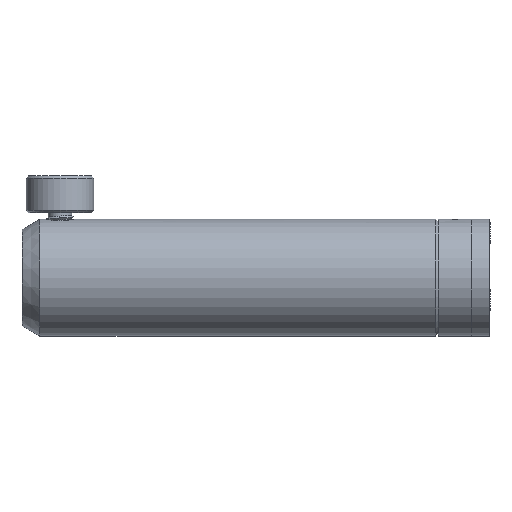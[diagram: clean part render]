
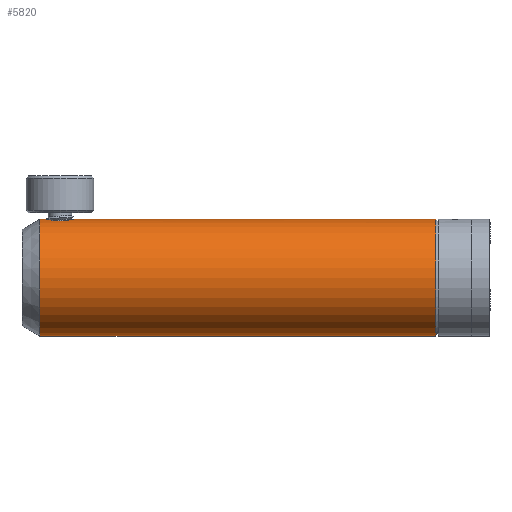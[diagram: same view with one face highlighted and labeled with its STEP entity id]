
A CAD part, left-side view. The second image highlights one B-rep face of the part: STEP entity #5820.
In plain terms, the highlighted cylindrical face has radius 12.497 mm (diameter 24.994 mm), a partial arc.
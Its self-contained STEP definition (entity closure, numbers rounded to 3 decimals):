
#3859=DIRECTION('',(0.,1.,0.));
#3860=VECTOR('',#3859,77.402);
#3861=CARTESIAN_POINT('',(-28.909,-62.492,
23.27));
#3862=LINE('',#3861,#3860);
#3863=CARTESIAN_POINT('',(-28.909,14.91,23.27));
#3895=DIRECTION('',(0.,-1.,0.));
#3896=VECTOR('',#3895,84.72);
#3897=CARTESIAN_POINT('',(-28.909,22.228,
-1.723));
#3898=LINE('',#3897,#3896);
#3907=CARTESIAN_POINT('',(-28.909,-62.492,
10.773));
#3908=DIRECTION('',(0.,1.,0.));
#3909=DIRECTION('',(0.,0.,-1.));
#3910=AXIS2_PLACEMENT_3D('',#3907,#3908,#3909);
#3912=DIRECTION('',(0.,-1.,0.));
#3913=VECTOR('',#3912,1.318);
#3914=CARTESIAN_POINT('',(-28.909,22.228,23.27));
#3915=LINE('',#3914,#3913);
#3916=CARTESIAN_POINT('',(-28.909,20.91,23.27));
#3917=CARTESIAN_POINT('',(-29.104,20.91,23.27));
#3918=CARTESIAN_POINT('',(-29.489,20.872,23.261));
#3919=CARTESIAN_POINT('',(-30.059,20.701,23.221));
#3920=CARTESIAN_POINT('',(-30.583,20.422,23.161));
#3921=CARTESIAN_POINT('',(-31.046,20.042,23.089));
#3922=CARTESIAN_POINT('',(-31.422,19.583,23.016));
#3923=CARTESIAN_POINT('',(-31.702,19.056,22.955));
#3924=CARTESIAN_POINT('',(-31.871,18.489,22.914));
#3925=CARTESIAN_POINT('',(-31.909,18.105,22.905));
#3926=CARTESIAN_POINT('',(-31.909,17.91,22.905));
#3928=CARTESIAN_POINT('',(-31.909,17.91,22.905));
#3929=CARTESIAN_POINT('',(-31.909,17.714,22.905));
#3930=CARTESIAN_POINT('',(-31.871,17.33,22.914));
#3931=CARTESIAN_POINT('',(-31.702,16.762,22.955));
#3932=CARTESIAN_POINT('',(-31.422,16.236,23.016));
#3933=CARTESIAN_POINT('',(-31.046,15.777,23.089));
#3934=CARTESIAN_POINT('',(-30.583,15.397,23.161));
#3935=CARTESIAN_POINT('',(-30.06,15.118,23.221));
#3936=CARTESIAN_POINT('',(-29.489,14.947,23.261));
#3937=CARTESIAN_POINT('',(-29.104,14.91,23.27));
#3938=CARTESIAN_POINT('',(-28.909,14.91,23.27));
#3944=CARTESIAN_POINT('',(-28.909,22.228,10.773));
#3945=DIRECTION('',(0.,1.,0.));
#3946=DIRECTION('',(0.,0.,-1.));
#3947=AXIS2_PLACEMENT_3D('',#3944,#3945,#3946);
#5622=CARTESIAN_POINT('',(-28.909,22.228,23.27));
#5623=VERTEX_POINT('',#5622);
#5624=CARTESIAN_POINT('',(-28.909,22.228,
-1.723));
#5625=VERTEX_POINT('',#5624);
#5638=VERTEX_POINT('',#3863);
#5640=VERTEX_POINT('',#3916);
#5641=VERTEX_POINT('',#3926);
#5735=CARTESIAN_POINT('',(-28.909,-62.492,
23.27));
#5736=CARTESIAN_POINT('',(-28.909,-62.492,
-1.723));
#5737=VERTEX_POINT('',#5735);
#5738=VERTEX_POINT('',#5736);
#5803=CARTESIAN_POINT('',(-28.909,26.038,10.773));
#5804=DIRECTION('',(0.,-1.,0.));
#5805=DIRECTION('',(0.,0.,-1.));
#5806=AXIS2_PLACEMENT_3D('',#5803,#5804,#5805);
#5807=CYLINDRICAL_SURFACE('',#5806,12.497);
#5808=ORIENTED_EDGE('',*,*,#5794,.F.);
#5809=ORIENTED_EDGE('',*,*,#5769,.F.);
#5811=ORIENTED_EDGE('',*,*,#5810,.T.);
#5812=ORIENTED_EDGE('',*,*,#5765,.T.);
#5814=ORIENTED_EDGE('',*,*,#5813,.T.);
#5816=ORIENTED_EDGE('',*,*,#5815,.T.);
#5817=ORIENTED_EDGE('',*,*,#5759,.F.);
#5818=EDGE_LOOP('',(#5808,#5809,#5811,#5812,#5814,#5816,#5817));
#5819=FACE_OUTER_BOUND('',#5818,.F.);
#5820=ADVANCED_FACE('',(#5819),#5807,.T.);
#3911=CIRCLE('',#3910,12.497);
#3927=B_SPLINE_CURVE_WITH_KNOTS('',3,(#3916,#3917,#3918,#3919,#3920,#3921,#3922,
#3923,#3924,#3925,#3926),.UNSPECIFIED.,.F.,.F.,(4,1,1,1,1,1,1,1,4),(0.,
0.125,0.25,0.375,0.5,0.625,0.75,0.875,1.),.UNSPECIFIED.);
#3939=B_SPLINE_CURVE_WITH_KNOTS('',3,(#3928,#3929,#3930,#3931,#3932,#3933,#3934,
#3935,#3936,#3937,#3938),.UNSPECIFIED.,.F.,.F.,(4,1,1,1,1,1,1,1,4),(0.,
0.125,0.25,0.375,0.5,0.625,0.75,0.875,1.),.UNSPECIFIED.);
#3948=CIRCLE('',#3947,12.497);
#5759=EDGE_CURVE('',#5737,#5638,#3862,.T.);
#5765=EDGE_CURVE('',#5623,#5640,#3915,.T.);
#5769=EDGE_CURVE('',#5625,#5738,#3898,.T.);
#5794=EDGE_CURVE('',#5738,#5737,#3911,.T.);
#5810=EDGE_CURVE('',#5625,#5623,#3948,.T.);
#5813=EDGE_CURVE('',#5640,#5641,#3927,.T.);
#5815=EDGE_CURVE('',#5641,#5638,#3939,.T.);
